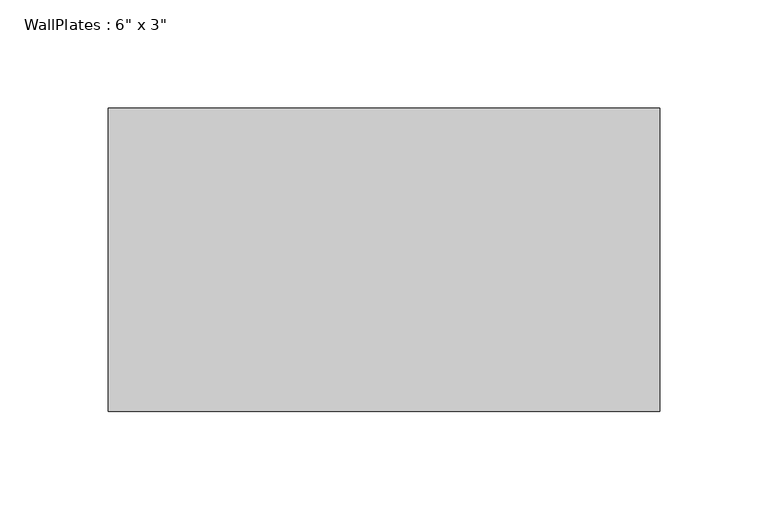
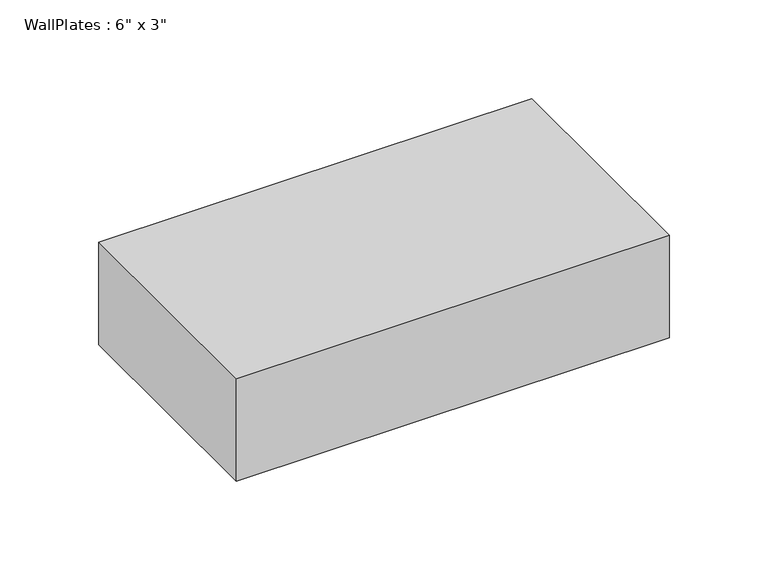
"""IFC4 building model written with IfcOpenShell, lengths in millimetres: beam geometry."""

from ifc_helpers import new_model, si_unit, frame, origin, place, context, project, spatial, polyline, outline, extrude, source, transform, mapped, element, save


def beam_5666e245(model_context):
    return source(origin(), model_context, "Body", "SweptSolid", [
        extrude(outline(polyline([(-126.995, -69.85), (-126.995, 69.85), (126.995, 69.85), (126.995, -69.85), (-126.995, -69.85)])), frame((0.0, 0.0, -31.75), z_axis=(0.0, 0.0, 1.0), x_axis=(1.0, 0.0, 0.0)), (0.0, 0.0, 1.0), 63.5),
    ])


if __name__ == "__main__":
    model = new_model("IFC4")
    model_context = context("Model", 3, world=origin())
    ifc_project = project(units=[si_unit("LENGTHUNIT", "METRE", prefix="MILLI")], contexts=[model_context])
    site = spatial("IfcSite", under=ifc_project)
    building = spatial("IfcBuilding", under=site)
    placement = place(None, origin())
    beam_shape = beam_5666e245(model_context)
    element("IfcBeam", 1, ObjectType="WallPlates : 6\" x 3\"", at=placement, inside=building, context=model_context, shape_type="MappedRepresentation", body=[
        mapped(beam_shape, transform((0.0, 0.0, 0.0), x_axis=(1.0, 0.0, 0.0), y_axis=(0.0, 1.0, 0.0), z_axis=(0.0, 0.0, 1.0))),
    ])
    save(model, "model.ifc")
